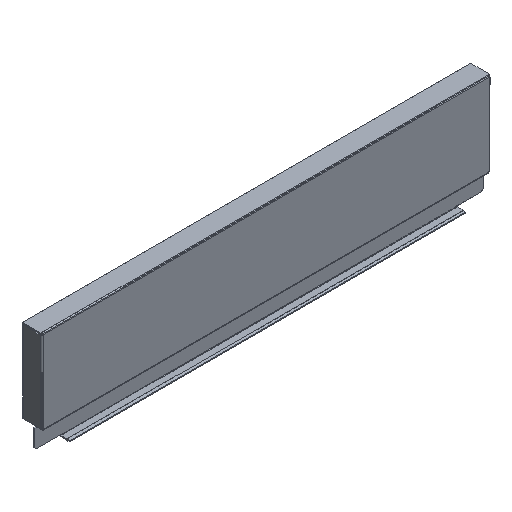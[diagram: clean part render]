
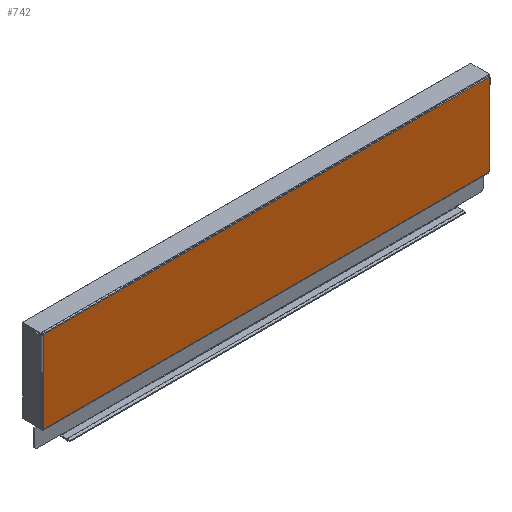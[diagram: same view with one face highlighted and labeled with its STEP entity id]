
A CAD part, isometric view. The second image highlights one B-rep face of the part: STEP entity #742.
In plain terms, the highlighted planar face has unit normal (0, -1, 0).
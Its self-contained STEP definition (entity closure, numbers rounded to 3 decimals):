
#36 = VERTEX_POINT ( 'NONE', #494 ) ;
#61 = VERTEX_POINT ( 'NONE', #489 ) ;
#100 = VERTEX_POINT ( 'NONE', #481 ) ;
#179 = VERTEX_POINT ( 'NONE', #457 ) ;
#250 = VERTEX_POINT ( 'NONE', #436 ) ;
#295 = DIRECTION ( 'NONE',  ( 0., 0., -1. ) ) ;
#307 = CARTESIAN_POINT ( 'NONE',  ( -179., -6., 101.385 ) ) ;
#352 = CARTESIAN_POINT ( 'NONE',  ( 178.5, -6., 17. ) ) ;
#354 = CARTESIAN_POINT ( 'NONE',  ( 179., -6., 17.5 ) ) ;
#371 = CARTESIAN_POINT ( 'NONE',  ( 178.5, -6., 17.5 ) ) ;
#396 = CARTESIAN_POINT ( 'NONE',  ( -179., -6., 83. ) ) ;
#400 = CARTESIAN_POINT ( 'NONE',  ( -179., -6., 17.5 ) ) ;
#436 = CARTESIAN_POINT ( 'NONE',  ( -178.5, -6., 17. ) ) ;
#457 = CARTESIAN_POINT ( 'NONE',  ( -178.5, -6., 17.5 ) ) ;
#481 = CARTESIAN_POINT ( 'NONE',  ( -179., -6., 82.5 ) ) ;
#489 = CARTESIAN_POINT ( 'NONE',  ( 179., -6., 82.5 ) ) ;
#494 = CARTESIAN_POINT ( 'NONE',  ( 179., -6., 83. ) ) ;
#521 = VERTEX_POINT ( 'NONE', #400 ) ;
#525 = VERTEX_POINT ( 'NONE', #396 ) ;
#543 = VERTEX_POINT ( 'NONE', #371 ) ;
#560 = VERTEX_POINT ( 'NONE', #354 ) ;
#562 = VERTEX_POINT ( 'NONE', #352 ) ;
#590 = CARTESIAN_POINT ( 'NONE',  ( -180., -6., 17.5 ) ) ;
#591 = DIRECTION ( 'NONE',  ( 1., 0., 0. ) ) ;
#742 = ADVANCED_FACE ( 'NONE', ( #2097 ), #1438, .T. ) ;
#947 = EDGE_LOOP ( 'NONE', ( #1978, #1977, #1976, #1975, #1974, #1973, #1972, #1971, #1970, #1969 ) ) ;
#1120 = DIRECTION ( 'NONE',  ( 0., 0., -1. ) ) ;
#1121 = CARTESIAN_POINT ( 'NONE',  ( -179., -6., 101.385 ) ) ;
#1124 = DIRECTION ( 'NONE',  ( 1., 0., 0. ) ) ;
#1125 = CARTESIAN_POINT ( 'NONE',  ( -180., -6., 83. ) ) ;
#1126 = DIRECTION ( 'NONE',  ( 0., 0., -1. ) ) ;
#1127 = CARTESIAN_POINT ( 'NONE',  ( 179., -6., 101.385 ) ) ;
#1129 = DIRECTION ( 'NONE',  ( 0., 0., -1. ) ) ;
#1131 = CARTESIAN_POINT ( 'NONE',  ( 179., -6., 101.385 ) ) ;
#1132 = DIRECTION ( 'NONE',  ( 1., 0., 0. ) ) ;
#1133 = CARTESIAN_POINT ( 'NONE',  ( 178.5, -6., 17.5 ) ) ;
#1135 = DIRECTION ( 'NONE',  ( 0., 0., 1. ) ) ;
#1136 = CARTESIAN_POINT ( 'NONE',  ( 178.5, -6., 15.3 ) ) ;
#1138 = DIRECTION ( 'NONE',  ( 1., 0., 0. ) ) ;
#1139 = CARTESIAN_POINT ( 'NONE',  ( -180., -6., 17. ) ) ;
#1141 = DIRECTION ( 'NONE',  ( 0., 0., -1. ) ) ;
#1142 = CARTESIAN_POINT ( 'NONE',  ( -178.5, -6., 17.5 ) ) ;
#1254 = AXIS2_PLACEMENT_3D ( 'NONE', #1437, #1434, #1430 ) ;
#1430 = DIRECTION ( 'NONE',  ( 1., 0., 0. ) ) ;
#1434 = DIRECTION ( 'NONE',  ( 0., -1., 0. ) ) ;
#1437 = CARTESIAN_POINT ( 'NONE',  ( -180., -6., 17. ) ) ;
#1438 = PLANE ( 'NONE',  #1254 ) ;
#1626 = EDGE_CURVE ( 'NONE', #179, #250, #2313, .T. ) ;
#1627 = EDGE_CURVE ( 'NONE', #250, #562, #2315, .T. ) ;
#1628 = EDGE_CURVE ( 'NONE', #562, #543, #2317, .T. ) ;
#1629 = EDGE_CURVE ( 'NONE', #543, #560, #2319, .T. ) ;
#1630 = EDGE_CURVE ( 'NONE', #61, #560, #2321, .T. ) ;
#1631 = EDGE_CURVE ( 'NONE', #36, #61, #2323, .T. ) ;
#1632 = EDGE_CURVE ( 'NONE', #525, #36, #2325, .T. ) ;
#1633 = EDGE_CURVE ( 'NONE', #525, #100, #2327, .T. ) ;
#1679 = EDGE_CURVE ( 'NONE', #100, #521, #2415, .T. ) ;
#1687 = EDGE_CURVE ( 'NONE', #521, #179, #2426, .T. ) ;
#1969 = ORIENTED_EDGE ( 'NONE', *, *, #1633, .T. ) ;
#1970 = ORIENTED_EDGE ( 'NONE', *, *, #1632, .F. ) ;
#1971 = ORIENTED_EDGE ( 'NONE', *, *, #1631, .F. ) ;
#1972 = ORIENTED_EDGE ( 'NONE', *, *, #1630, .F. ) ;
#1973 = ORIENTED_EDGE ( 'NONE', *, *, #1629, .T. ) ;
#1974 = ORIENTED_EDGE ( 'NONE', *, *, #1628, .T. ) ;
#1975 = ORIENTED_EDGE ( 'NONE', *, *, #1627, .T. ) ;
#1976 = ORIENTED_EDGE ( 'NONE', *, *, #1626, .T. ) ;
#1977 = ORIENTED_EDGE ( 'NONE', *, *, #1687, .T. ) ;
#1978 = ORIENTED_EDGE ( 'NONE', *, *, #1679, .T. ) ;
#2097 = FACE_OUTER_BOUND ( 'NONE', #947, .T. ) ;
#2313 = LINE ( 'NONE', #1142, #2314 ) ;
#2314 = VECTOR ( 'NONE', #1141, 1000. ) ;
#2315 = LINE ( 'NONE', #1139, #2316 ) ;
#2316 = VECTOR ( 'NONE', #1138, 1000. ) ;
#2317 = LINE ( 'NONE', #1136, #2318 ) ;
#2318 = VECTOR ( 'NONE', #1135, 1000. ) ;
#2319 = LINE ( 'NONE', #1133, #2320 ) ;
#2320 = VECTOR ( 'NONE', #1132, 1000. ) ;
#2321 = LINE ( 'NONE', #1131, #2322 ) ;
#2322 = VECTOR ( 'NONE', #1129, 1000. ) ;
#2323 = LINE ( 'NONE', #1127, #2324 ) ;
#2324 = VECTOR ( 'NONE', #1126, 1000. ) ;
#2325 = LINE ( 'NONE', #1125, #2326 ) ;
#2326 = VECTOR ( 'NONE', #1124, 1000. ) ;
#2327 = LINE ( 'NONE', #1121, #2328 ) ;
#2328 = VECTOR ( 'NONE', #1120, 1000. ) ;
#2415 = LINE ( 'NONE', #307, #2416 ) ;
#2416 = VECTOR ( 'NONE', #295, 1000. ) ;
#2426 = LINE ( 'NONE', #590, #2428 ) ;
#2428 = VECTOR ( 'NONE', #591, 1000. ) ;
